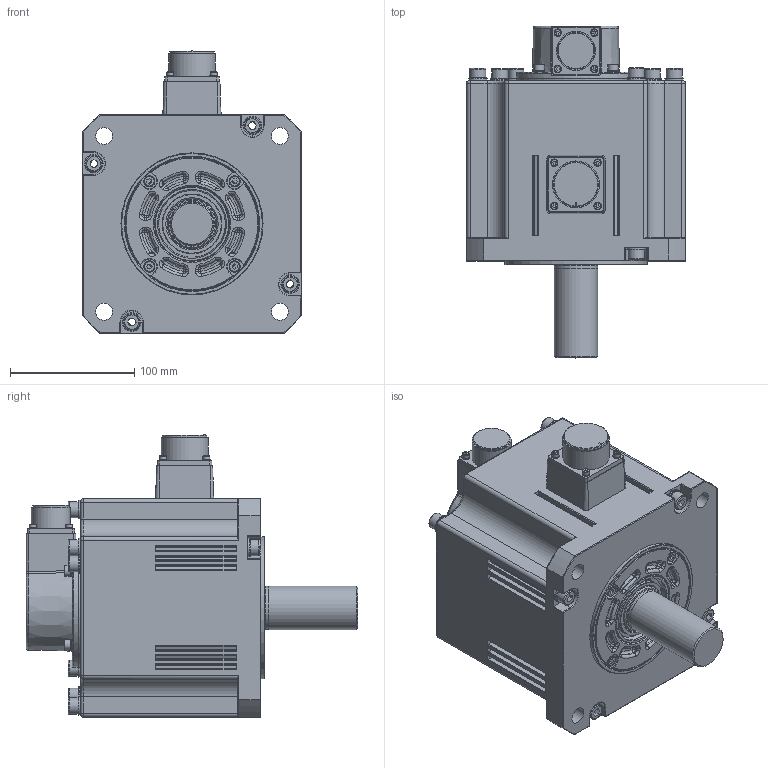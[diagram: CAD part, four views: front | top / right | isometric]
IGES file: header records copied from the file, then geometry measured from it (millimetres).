
Global section: file name: No Iges File Name specified; native system: AutoDesk Inventor R12.0; preprocessor: AutoDesk Inventor Iges Exporter R12.0; author: No Author specified; organization: No Organization specified; date: 20160715.195727; units: millimetre
Bounding box: 176 x 267 x 227.3 mm (x, y, z)
Volume: 4409738.2 mm3; surface area: 223588.9 mm2
Topology: 1 solids, 1 shells, 996 faces, 2273 edges, 1383 vertices
Faces by surface type: plane 397, cylinder 215, revolution 145, torus 144, bspline 63, cone 24, sphere 8
Full cylindrical faces by diameter (mm): 5.5 x8, 6 x8, 8.5 x8, 9 x8, 13 x11, 15 x11, 29.5 x1, 31.5 x1, 34.8 x1, 35 x1, 36 x1, 37.7 x1, 40 x1, 47.112 x2, 60 x1, 95.8 x1, 114.3 x1
